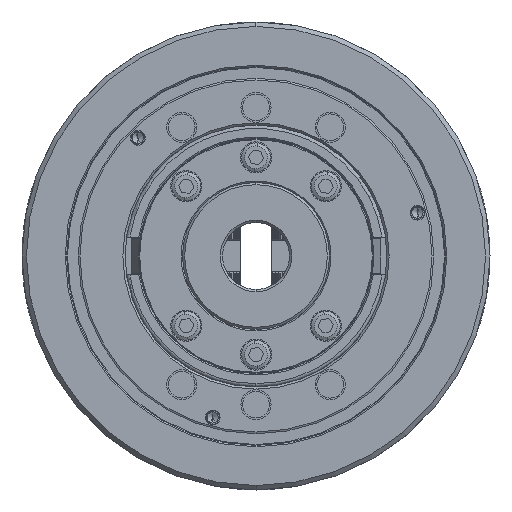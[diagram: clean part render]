
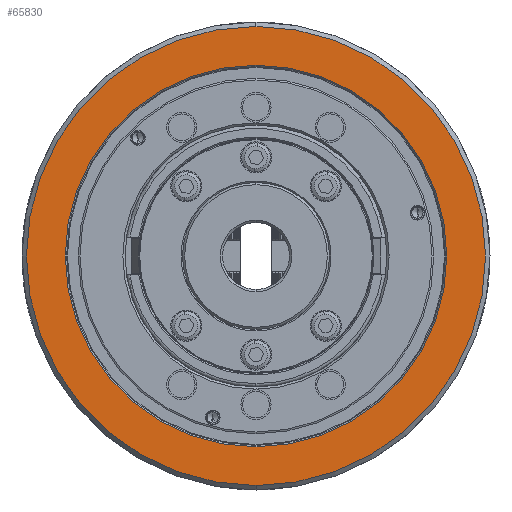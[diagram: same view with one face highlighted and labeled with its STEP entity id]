
A CAD part, left-side view. The second image highlights one B-rep face of the part: STEP entity #65830.
In plain terms, the highlighted planar face has unit normal (-1, 0, 0).
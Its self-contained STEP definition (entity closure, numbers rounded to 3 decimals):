
#433 = DIRECTION ( 'NONE',  ( 1., 0., 0. ) ) ;
#1441 = AXIS2_PLACEMENT_3D ( 'NONE', #39047, #7885, #44214 ) ;
#1613 = EDGE_CURVE ( 'NONE', #23304, #59890, #36183, .T. ) ;
#2624 = VERTEX_POINT ( 'NONE', #11341 ) ;
#3125 = CARTESIAN_POINT ( 'NONE',  ( -91., 0., 0. ) ) ;
#3839 = AXIS2_PLACEMENT_3D ( 'NONE', #31632, #433, #36887 ) ;
#6014 = DIRECTION ( 'NONE',  ( 0., 0., 1. ) ) ;
#6760 = AXIS2_PLACEMENT_3D ( 'NONE', #29775, #66107, #34993 ) ;
#7885 = DIRECTION ( 'NONE',  ( -1., 0., 0. ) ) ;
#8385 = DIRECTION ( 'NONE',  ( 0., 0., 1. ) ) ;
#11341 = CARTESIAN_POINT ( 'NONE',  ( -91., 0., 85.6 ) ) ;
#17474 = EDGE_LOOP ( 'NONE', ( #62771, #58579 ) ) ;
#20305 = PLANE ( 'NONE',  #49444 ) ;
#22139 = CARTESIAN_POINT ( 'NONE',  ( -91., 0., -85.6 ) ) ;
#23304 = VERTEX_POINT ( 'NONE', #30281 ) ;
#24988 = FACE_BOUND ( 'NONE', #52888, .T. ) ;
#26607 = FACE_OUTER_BOUND ( 'NONE', #17474, .T. ) ;
#29775 = CARTESIAN_POINT ( 'NONE',  ( -91., 0., 0. ) ) ;
#30281 = CARTESIAN_POINT ( 'NONE',  ( -91., 0., -103. ) ) ;
#31632 = CARTESIAN_POINT ( 'NONE',  ( -91., 0., 0. ) ) ;
#31946 = CARTESIAN_POINT ( 'NONE',  ( -91., 105., 0. ) ) ;
#33388 = ORIENTED_EDGE ( 'NONE', *, *, #50140, .T. ) ;
#34652 = AXIS2_PLACEMENT_3D ( 'NONE', #3125, #39538, #8385 ) ;
#34993 = DIRECTION ( 'NONE',  ( 0., 0., -1. ) ) ;
#36074 = EDGE_CURVE ( 'NONE', #59890, #23304, #45353, .T. ) ;
#36183 = CIRCLE ( 'NONE', #34652, 103. ) ;
#36518 = VERTEX_POINT ( 'NONE', #22139 ) ;
#36887 = DIRECTION ( 'NONE',  ( 0., 0., -1. ) ) ;
#37169 = DIRECTION ( 'NONE',  ( -1., 0., 0. ) ) ;
#37254 = EDGE_CURVE ( 'NONE', #36518, #2624, #56594, .T. ) ;
#39047 = CARTESIAN_POINT ( 'NONE',  ( -91., 0., 0. ) ) ;
#39538 = DIRECTION ( 'NONE',  ( -1., 0., 0. ) ) ;
#44214 = DIRECTION ( 'NONE',  ( 0., 0., 1. ) ) ;
#45353 = CIRCLE ( 'NONE', #1441, 103. ) ;
#48350 = CARTESIAN_POINT ( 'NONE',  ( -91., 0., 103. ) ) ;
#48636 = ORIENTED_EDGE ( 'NONE', *, *, #37254, .T. ) ;
#49444 = AXIS2_PLACEMENT_3D ( 'NONE', #31946, #37169, #6014 ) ;
#50140 = EDGE_CURVE ( 'NONE', #2624, #36518, #55061, .T. ) ;
#52888 = EDGE_LOOP ( 'NONE', ( #33388, #48636 ) ) ;
#55061 = CIRCLE ( 'NONE', #3839, 85.6 ) ;
#56594 = CIRCLE ( 'NONE', #6760, 85.6 ) ;
#58579 = ORIENTED_EDGE ( 'NONE', *, *, #36074, .T. ) ;
#59890 = VERTEX_POINT ( 'NONE', #48350 ) ;
#62771 = ORIENTED_EDGE ( 'NONE', *, *, #1613, .T. ) ;
#65830 = ADVANCED_FACE ( 'NONE', ( #26607, #24988 ), #20305, .T. ) ;
#66107 = DIRECTION ( 'NONE',  ( 1., 0., 0. ) ) ;
